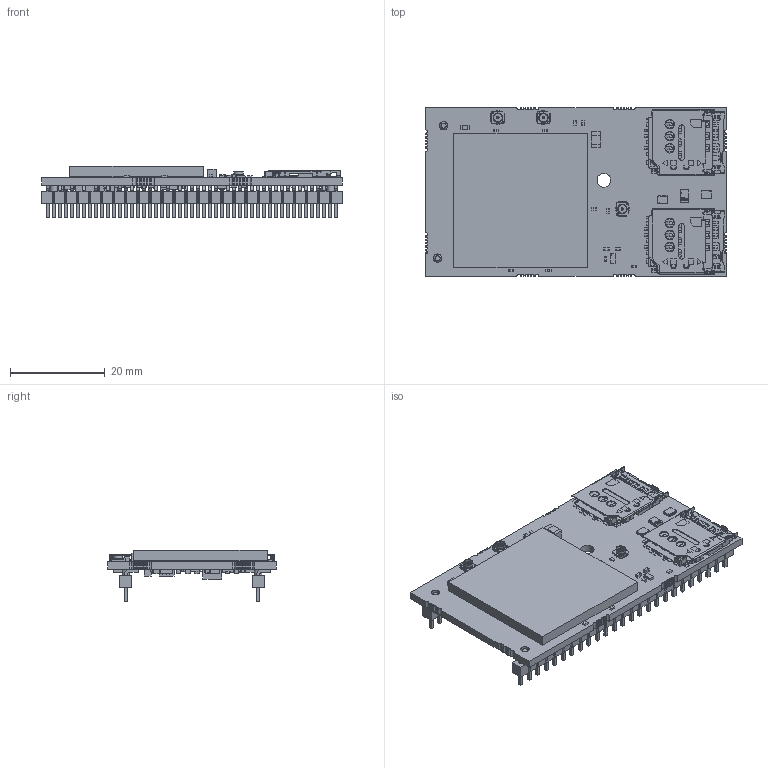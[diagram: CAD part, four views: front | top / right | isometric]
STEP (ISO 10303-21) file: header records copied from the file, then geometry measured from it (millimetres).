
FILE_DESCRIPTION(('Open CASCADE Model'),'2;1');
FILE_NAME('Open CASCADE Shape Model','2020-01-14T14:46:52',('Author'),( 'Open CASCADE'),'Open CASCADE STEP processor 6.8','Open CASCADE 6.8' ,'Unknown');
FILE_SCHEMA(('AUTOMOTIVE_DESIGN { 1 0 10303 214 1 1 1 1 }'));
Length unit declared in the file: millimetre
Products named in the file (203): PCB; Board-PB2498r1; Open CASCADE STEP translator 6.8 1.1.1; Open CASCADE STEP translator 6.8 1.1.1.1; CR2-PB2498r1; DPV8_1P7X0P4; CR1-PB2498r1; R12-PB2498r1; 6194682416; Extruded; 6194681856; C35-PB2498r1; 6194380000; 6194380400; C36-PB2498r1; U12-PB2498r1; 6194687616; 6194684336; Cylinder; 6194683856; 6194683696; U13-PB2498r1; 6194019632; 6194019392; 6194018992; 6194018832; R10-PB2498r1; 6194679296; 6194679696; C38-PB2498r1; 6194688496; 6194689056; C37-PB2498r1; U1-PB2498r1; 6194005472; U11-PB2498r1; U10-PB2498r1; C34-PB2498r1; C33-PB2498r1; C32-PB2498r1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
Assembly tree (427 placements, depth 4):
  PCB
    Board-PB2498r1
      Open CASCADE STEP translator 6.8 1.1.1
        Open CASCADE STEP translator 6.8 1.1.1.1
    CR2-PB2498r1
      DPV8_1P7X0P4
    CR1-PB2498r1
      DPV8_1P7X0P4
    R12-PB2498r1
      6194682416  x2
        Extruded
      6194681856
        Extruded
    C35-PB2498r1
      6194380000
        Extruded
      6194380400  x2
        Extruded
    C36-PB2498r1
      6194380000
        Extruded
      6194380400  x2
        Extruded
    U12-PB2498r1
      6194687616  x7
        Extruded
      6194684336
        Cylinder
      6194683856
        Extruded
      6194683696
        Extruded
    U13-PB2498r1
      6194019632  x7
        Extruded
      6194019392
        Cylinder
      6194018992
        Extruded
      6194018832
        Extruded
    R10-PB2498r1
      6194679296
        Extruded
      6194679696  x2
        Extruded
    C38-PB2498r1
      6194688496
        Extruded
      6194689056  x2
        Extruded
    C37-PB2498r1
      6194688496
        Extruded
      6194689056  x2
        Extruded
    U1-PB2498r1
      6194005472
        Extruded
    U11-PB2498r1
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Bounding box: 63.5 x 35.56 x 10.87 mm (x, y, z)
Volume: 6527.2 mm3; surface area: 12133.8 mm2
Topology: 314 solids, 466 shells, 6124 faces, 16226 edges, 11008 vertices
Faces by surface type: plane 4614, cylinder 1206, bspline 146, sphere 94, torus 48, cone 16
Full cylindrical faces by diameter (mm): 0.08 x2, 0.1 x6, 0.102 x15, 0.3 x1, 1.575 x4, 1.778 x4, 2.87 x1
Entity records: 138951 total; most frequent: CARTESIAN_POINT 29083, ORIENTED_EDGE 19552, DIRECTION 18794, EDGE_CURVE 9944, LINE 8236, VECTOR 8236, VERTEX_POINT 6716, AXIS2_PLACEMENT_3D 5279
